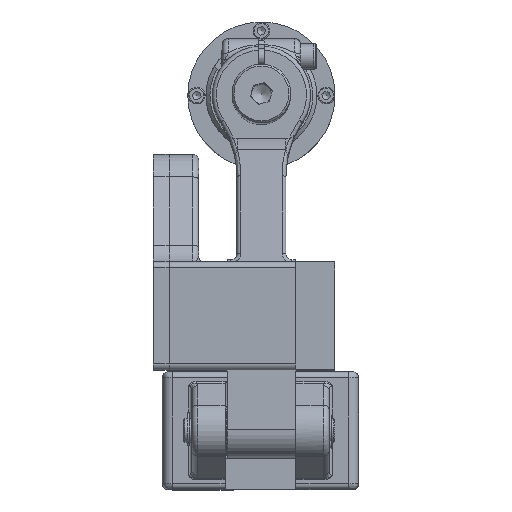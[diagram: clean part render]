
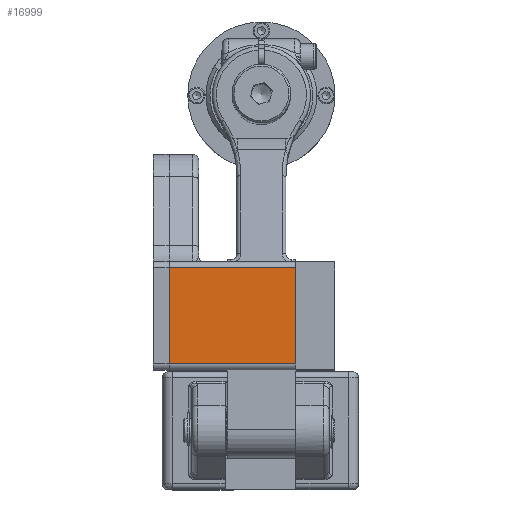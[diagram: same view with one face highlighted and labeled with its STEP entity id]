
A CAD part, top view. The second image highlights one B-rep face of the part: STEP entity #16999.
In plain terms, the highlighted planar face has unit normal (0, 0, 1).
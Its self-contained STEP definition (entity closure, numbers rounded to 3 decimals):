
#1018=PLANE('',#18461);
#1680=FACE_OUTER_BOUND('',#2667,.T.);
#2667=EDGE_LOOP('',(#13235,#13236,#13237,#13238));
#3873=LINE('',#27979,#5110);
#3874=LINE('',#27981,#5111);
#3875=LINE('',#27983,#5112);
#3876=LINE('',#27984,#5113);
#5110=VECTOR('',#22009,10.);
#5111=VECTOR('',#22010,10.);
#5112=VECTOR('',#22011,10.);
#5113=VECTOR('',#22012,10.);
#7543=VERTEX_POINT('',#27977);
#7544=VERTEX_POINT('',#27978);
#7545=VERTEX_POINT('',#27980);
#7546=VERTEX_POINT('',#27982);
#9585=EDGE_CURVE('',#7543,#7544,#3873,.T.);
#9586=EDGE_CURVE('',#7545,#7543,#3874,.T.);
#9587=EDGE_CURVE('',#7546,#7545,#3875,.T.);
#9588=EDGE_CURVE('',#7544,#7546,#3876,.T.);
#13235=ORIENTED_EDGE('',*,*,#9585,.F.);
#13236=ORIENTED_EDGE('',*,*,#9586,.F.);
#13237=ORIENTED_EDGE('',*,*,#9587,.F.);
#13238=ORIENTED_EDGE('',*,*,#9588,.F.);
#16999=ADVANCED_FACE('',(#1680),#1018,.T.);
#18461=AXIS2_PLACEMENT_3D('',#27976,#22007,#22008);
#22007=DIRECTION('center_axis',(0.,0.,1.));
#22008=DIRECTION('ref_axis',(1.,0.,0.));
#22009=DIRECTION('',(-1.,0.,0.));
#22010=DIRECTION('',(0.,-1.,0.));
#22011=DIRECTION('',(1.,0.,0.));
#22012=DIRECTION('',(0.,1.,0.));
#27976=CARTESIAN_POINT('Origin',(24.449,47.199,90.));
#27977=CARTESIAN_POINT('',(64.5,3.,90.));
#27978=CARTESIAN_POINT('',(0.,3.,90.));
#27979=CARTESIAN_POINT('',(44.475,3.,90.));
#27980=CARTESIAN_POINT('',(64.5,52.,90.));
#27981=CARTESIAN_POINT('',(64.5,0.,90.));
#27982=CARTESIAN_POINT('',(0.,52.,90.));
#27983=CARTESIAN_POINT('',(19.725,52.,90.));
#27984=CARTESIAN_POINT('',(0.,110.,90.));
